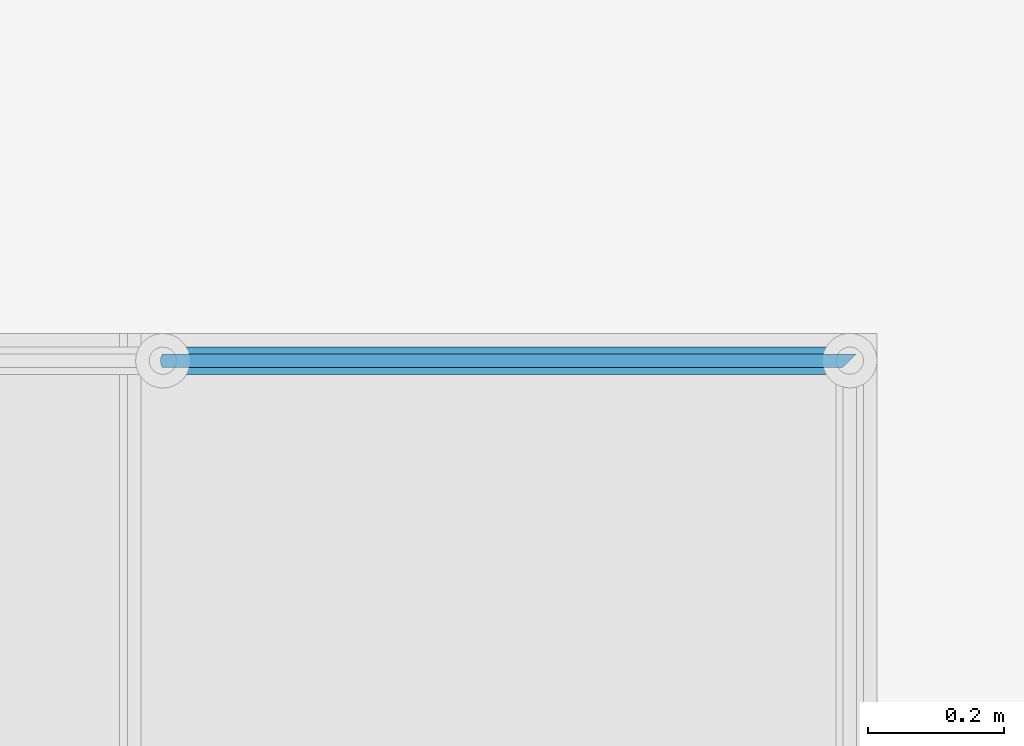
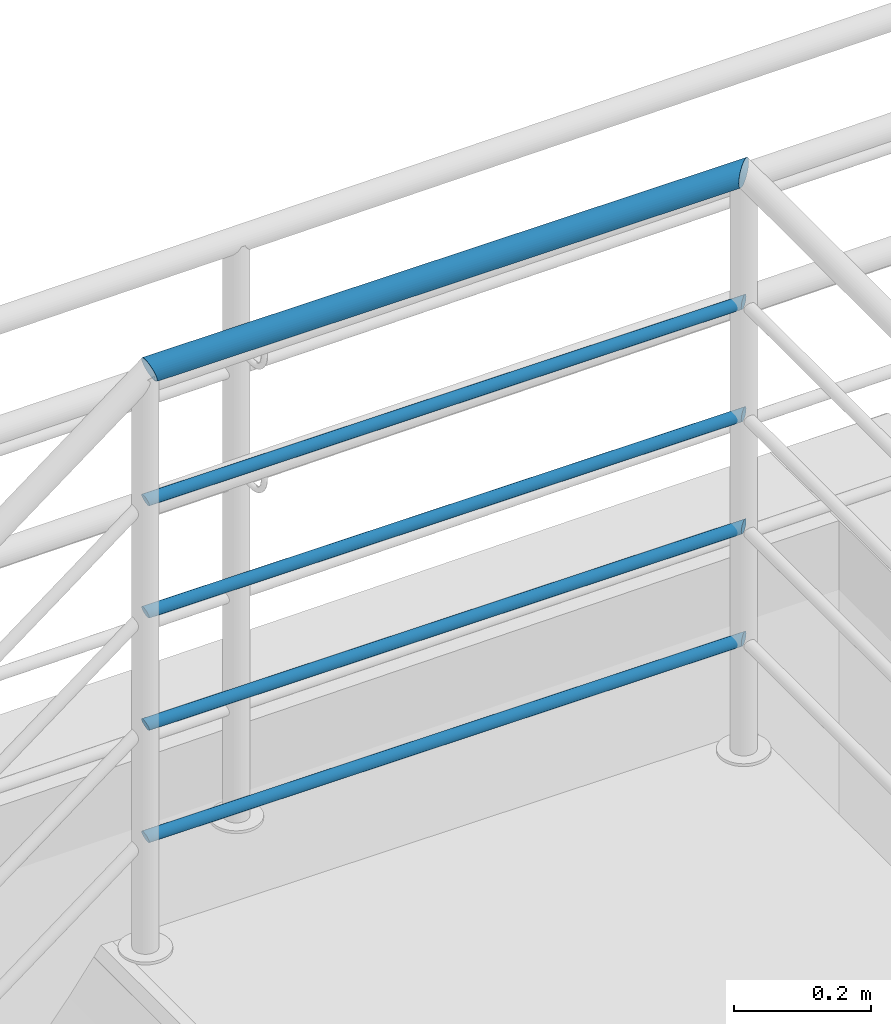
# One storey, part 54 of 237: 6 building element parts, 1 element without a shape of its own.
"""IFC2X3 building model written with IfcOpenShell, lengths in millimetres."""

from ifc_helpers import new_model, entity, si_unit, converted_unit, derived_unit, money_unit, direction, frame, origin_with_axes, place, context, subcontext, project, spatial, faceted_brep, material, type_object, element, aggregate, save


model = new_model("IFC2X3")

# Units and contexts
model_context = context("Model", 3, precision=0.01, world=origin_with_axes(), true_north=direction((0.0, 1.0)))
body_context = subcontext(model_context, "Body", "Model", "MODEL_VIEW")
ifc_project = project(units=[si_unit("LENGTHUNIT", "METRE", prefix="MILLI"), si_unit("AREAUNIT", "SQUARE_METRE"), si_unit("VOLUMEUNIT", "CUBIC_METRE"), converted_unit("PLANEANGLEUNIT", "DEGREE", entity("IfcPlaneAngleMeasure", 0.0174532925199), si_unit("PLANEANGLEUNIT", "RADIAN"), dimensions=[0, 0, 0, 0, 0, 0, 0]), money_unit("USD"), converted_unit("TIMEUNIT", "Year", entity("IfcTimeMeasure", 31556926.0), si_unit("TIMEUNIT", "SECOND"), dimensions=[0, 0, 1, 0, 0, 0, 0]), si_unit("MASSUNIT", "GRAM", prefix="KILO"), si_unit("THERMODYNAMICTEMPERATUREUNIT", "DEGREE_CELSIUS"), si_unit("LUMINOUSINTENSITYUNIT", "LUMEN"), si_unit("ENERGYUNIT", "JOULE", prefix="MEGA"), derived_unit("THERMALCONDUCTANCEUNIT", [(si_unit("POWERUNIT", "WATT"), 1), (si_unit("LENGTHUNIT", "METRE"), -1), (si_unit("THERMODYNAMICTEMPERATUREUNIT", "KELVIN"), -1)]), derived_unit("SPECIFICHEATCAPACITYUNIT", [(si_unit("ENERGYUNIT", "JOULE"), 1), (si_unit("MASSUNIT", "GRAM", prefix="KILO"), -1), (si_unit("THERMODYNAMICTEMPERATUREUNIT", "KELVIN"), -1)]), derived_unit("MASSDENSITYUNIT", [(si_unit("MASSUNIT", "GRAM", prefix="KILO"), 1), (si_unit("VOLUMEUNIT", "CUBIC_METRE"), -1)])], contexts=[model_context])

# Site, building, storey
site_placement = place(None, origin_with_axes())
site = spatial("IfcSite", under=ifc_project, at=site_placement, Name="Local", CompositionType="ELEMENT")
building_placement = place(site_placement, origin_with_axes())
building = spatial("IfcBuilding", under=site, at=building_placement, Name="Construção", CompositionType="ELEMENT")
storey_placement = place(building_placement, origin_with_axes())
storey = spatial("IfcBuildingStorey", under=building, at=storey_placement, Name="Pavimento Térreo", CompositionType="ELEMENT", Elevation=0.0)

# Railing, building element parts
railing_type = type_object("IfcRailingType", Name="Tipo de Guarda-Corpo", PredefinedType="NOTDEFINED")
railing_placement = place(storey_placement, frame((61612.4440926, 28006.4497128, -1265.99547451), z_axis=(0.0, 0.0, 1.0), x_axis=(-1.0, 0.0, 0.0)))
railing = element("IfcRailing", 1, at=railing_placement, inside=storey, type_object=railing_type, Name="Guarda-Corpo - 001", PredefinedType="NOTDEFINED")
ifc_material = material(Name="Aço - Inoxidável")
building_element_part_1_placement = place(railing_placement, origin_with_axes())
building_element_part_1 = element("IfcBuildingElementPart", 2, at=building_element_part_1_placement, material=ifc_material, Name="Aço - Inoxidável", context=body_context, shape_type="Brep", body=[
    faceted_brep([(-2790.0, -5828.47582909, 1938.88727796), (-2790.30384494, -5828.77972828, 1942.36024151), (-1807.41508677, -5828.60509104, 1942.36024153), (-2790.30384494, -5828.77972828, 1935.41431441), (-2791.20614758, -5829.68219202, 1932.04687509), (-2792.67949192, -5831.1557994, 1928.88727796), (-2794.67911114, -5833.15577561, 1926.03152577), (-2797.14424781, -5835.62135239, 1923.5663891), (-2800.0, -5838.47761443, 1921.56676988), (-2803.15959713, -5841.63777566, 1920.09342554), (-2806.52703645, -5845.00581618, 1919.1911229), (-2810.0, -5848.47939977, 1918.88727796), (-2813.47296355, -5851.95298337, 1919.1911229), (-2816.84040287, -5855.32102388, 1920.09342554), (-2820.0, -5858.48118511, 1921.56676988), (-2822.85575219, -5861.33744715, 1923.5663891), (-2825.32088886, -5863.80302393, 1926.03152577), (-2827.32050808, -5865.80300014, 1928.88727796), (-2828.79385242, -5867.27660752, 1932.04687509), (-2829.69615506, -5868.17907126, 1935.41431441), (-2830.0, -5868.48297045, 1938.88727796), (-2829.69615506, -5868.17907126, 1942.36024151), (-2828.79385242, -5867.27660752, 1945.72768083), (-2827.32050808, -5865.80300014, 1948.88727796), (-2825.32088886, -5863.80302393, 1951.74303015), (-2822.85575219, -5861.33744715, 1954.20816682), (-2820.0, -5858.48118511, 1956.20778604), (-2816.84040287, -5855.32102388, 1957.68113038), (-2813.47296355, -5851.95298337, 1958.58343302), (-2810.0, -5848.47939977, 1958.88727796), (-2806.52703645, -5845.00581618, 1958.58343302), (-2803.15959713, -5841.63777566, 1957.68113038), (-2800.0, -5838.47761443, 1956.20778604), (-2797.14424781, -5835.62135239, 1954.20816682), (-2794.67911114, -5833.15577561, 1951.74303015), (-2792.67949192, -5831.1557994, 1948.88727796), (-2791.20614758, -5829.68219202, 1945.72768083), (-1806.28724948, -5829.50702406, 1945.72768084), (-1808.57806127, -5828.30162728, 1938.88727799), (-1809.74083658, -5828.60585337, 1935.41431444), (-1810.86808236, -5829.50852555, 1932.04687513), (-1811.92554783, -5830.9822166, 1928.887278), (-1812.88110242, -5832.98214915, 1926.03152581), (-1813.70571211, -5835.44755627, 1923.56638914), (-1814.37432152, -5838.3035278, 1921.56676993), (-1814.86661532, -5841.4632865, 1920.09342559), (-1815.1676354, -5844.8308247, 1919.19112295), (-1815.26823542, -5848.30382145, 1918.88727801), (-1815.16535869, -5851.77675151, 1919.19112295), (-1814.86213108, -5855.14409165, 1920.09342559), (-1814.367766, -5858.30352695, 1921.56676993), (-1813.69728449, -5861.15905956, 1923.56638914), (-1812.87105878, -5863.62392557, 1926.03152581), (-1811.91419333, -5865.62323128, 1928.887278), (-1810.85576201, -5867.09622878, 1932.04687513), (-1809.72792472, -5867.99816181, 1935.41431444), (-1808.56495022, -5868.30162557, 1938.88727799), (-1807.40217491, -5867.99739948, 1942.36024153), (-1806.27492912, -5867.0947273, 1945.72768084), (-1805.21746366, -5865.62103625, 1948.88727797), (-1804.26190906, -5863.6211037, 1951.74303016), (-1803.43729938, -5861.15569658, 1954.20816683), (-1802.76868996, -5858.29972505, 1956.20778604), (-1802.27639617, -5855.13996635, 1957.68113038), (-1801.97537609, -5851.77242815, 1958.58343302), (-1801.87477607, -5848.2994314, 1958.88727796), (-1801.9776528, -5844.82650134, 1958.58343302), (-1802.28088041, -5841.4591612, 1957.68113038), (-1802.77524549, -5838.2997259, 1956.20778604), (-1803.445727, -5835.44419329, 1954.20816683), (-1804.27195271, -5832.97932728, 1951.74303016), (-1805.22881816, -5830.98002157, 1948.88727797)], [[[0, 1, 2]], [[0, 3, 4, 5, 6, 7, 8, 9, 10, 11, 12, 13, 14, 15, 16, 17, 18, 19, 20, 21, 22, 23, 24, 25, 26, 27, 28, 29, 30, 31, 32, 33, 34, 35, 36, 1]], [[1, 37, 2]], [[0, 2, 38]], [[3, 0, 38]], [[4, 3, 39]], [[5, 4, 40]], [[6, 5, 41]], [[7, 6, 42]], [[8, 7, 43]], [[9, 8, 44, 45]], [[10, 9, 45, 46]], [[11, 10, 46, 47]], [[12, 11, 47, 48]], [[13, 12, 48, 49]], [[14, 13, 49]], [[15, 14, 50]], [[16, 15, 51]], [[17, 16, 52]], [[18, 17, 53]], [[19, 18, 54]], [[20, 19, 55]], [[21, 20, 56]], [[22, 21, 57]], [[23, 22, 58]], [[24, 23, 59]], [[25, 24, 60]], [[26, 25, 61]], [[27, 26, 62]], [[28, 27, 63, 64]], [[29, 28, 64, 65]], [[30, 29, 65, 66]], [[31, 30, 66, 67]], [[32, 31, 67]], [[33, 32, 68]], [[34, 33, 69]], [[35, 34, 70]], [[36, 35, 71]], [[1, 36, 37]], [[38, 2, 37, 71, 70, 69, 68, 67, 66, 65, 64, 63, 62, 61, 60, 59, 58, 57, 56, 55, 54, 53, 52, 51, 50, 49, 48, 47, 46, 45, 44, 43, 42, 41, 40, 39]], [[3, 38, 39]], [[4, 39, 40]], [[5, 40, 41]], [[6, 41, 42]], [[7, 42, 43]], [[8, 43, 44]], [[14, 49, 50]], [[15, 50, 51]], [[16, 51, 52]], [[17, 52, 53]], [[18, 53, 54]], [[19, 54, 55]], [[20, 55, 56]], [[21, 56, 57]], [[22, 57, 58]], [[23, 58, 59]], [[24, 59, 60]], [[25, 60, 61]], [[26, 61, 62]], [[27, 62, 63]], [[32, 67, 68]], [[33, 68, 69]], [[34, 69, 70]], [[35, 70, 71]], [[36, 71, 37]]]),
])
building_element_part_2_placement = place(railing_placement, origin_with_axes())
building_element_part_2 = element("IfcBuildingElementPart", 3, at=building_element_part_2_placement, material=ifc_material, Name="Aço - Inoxidável", context=body_context, shape_type="Brep", body=[
    faceted_brep([(-2800.0, -5838.47761443, 1108.88727796), (-2800.15192247, -5838.62956403, 1110.62375974), (-1801.29656659, -5838.4511637, 1110.62375974), (-2800.15192247, -5838.62956403, 1107.15079618), (-2800.60307379, -5839.08079589, 1105.46707653), (-2801.33974596, -5839.81759958, 1103.88727796), (-2802.33955557, -5840.81758769, 1102.45940186), (-2803.5721239, -5842.05037608, 1101.22683353), (-2805.0, -5843.4785071, 1100.22702392), (-2806.57979857, -5845.05858772, 1099.49035175), (-2808.26351822, -5846.74260797, 1099.03920043), (-2810.0, -5848.47939977, 1098.88727796), (-2811.73648178, -5850.21619157, 1099.03920043), (-2813.42020143, -5851.90021183, 1099.49035175), (-2815.0, -5853.48029244, 1100.22702392), (-2816.4278761, -5854.90842346, 1101.22683353), (-2817.66044443, -5856.14121185, 1102.45940186), (-2818.66025404, -5857.14119996, 1103.88727796), (-2819.39692621, -5857.87800365, 1105.46707653), (-2819.84807753, -5858.32923552, 1107.15079618), (-2820.0, -5858.48118511, 1108.88727796), (-2819.84807753, -5858.32923552, 1110.62375974), (-2819.39692621, -5857.87800365, 1112.30747939), (-2818.66025404, -5857.14119996, 1113.88727796), (-2817.66044443, -5856.14121185, 1115.31515406), (-2816.4278761, -5854.90842346, 1116.54772239), (-2815.0, -5853.48029244, 1117.547532), (-2813.42020143, -5851.90021183, 1118.28420417), (-2811.73648178, -5850.21619157, 1118.73535549), (-2810.0, -5848.47939977, 1118.88727796), (-2808.26351822, -5846.74260797, 1118.73535549), (-2806.57979857, -5845.05858772, 1118.28420417), (-2805.0, -5843.4785071, 1117.547532), (-2803.5721239, -5842.05037608, 1116.54772239), (-2802.33955557, -5840.81758769, 1115.31515406), (-2801.33974596, -5839.81759958, 1113.88727796), (-2800.60307379, -5839.08079589, 1112.30747939), (-1800.73264794, -5838.90213022, 1112.30747939), (-1801.87805383, -5838.29943182, 1108.88727796), (-1802.45944149, -5838.45154487, 1107.15079619), (-1803.02306438, -5838.90288096, 1105.46707653), (-1803.55179712, -5839.63972648, 1103.88727797), (-1804.02957441, -5840.63969276, 1102.45940187), (-1804.44187925, -5841.87239632, 1101.22683354), (-1804.77618396, -5843.30038208, 1100.22702393), (-1805.02233086, -5844.88026143, 1099.49035176), (-1805.1728409, -5846.56403053, 1099.03920044), (-1805.22314091, -5848.30052891, 1098.88727797), (-1805.17170254, -5850.03699394, 1099.03920044), (-1805.02008874, -5851.72066401, 1099.49035176), (-1804.7729062, -5853.30038166, 1100.22702393), (-1804.43766544, -5854.72814796, 1101.22683354), (-1804.02455259, -5855.96058097, 1102.45940187), (-1803.54611986, -5856.96023382, 1103.88727797), (-1803.0169042, -5857.69673258, 1105.46707653), (-1802.45298556, -5858.14769909, 1107.15079619), (-1801.87149831, -5858.29943097, 1108.88727796), (-1801.29011065, -5858.14731793, 1110.62375974), (-1800.72648776, -5857.69598183, 1112.30747939), (-1800.19775503, -5856.95913631, 1113.88727795), (-1799.71997773, -5855.95917003, 1115.31515405), (-1799.30767289, -5854.72646647, 1116.54772238), (-1798.97336818, -5853.29848071, 1117.54753199), (-1798.72722128, -5851.71860136, 1118.28420416), (-1798.57671124, -5850.03483226, 1118.73535548), (-1798.52641124, -5848.29833388, 1118.88727795), (-1798.5778496, -5846.56186885, 1118.73535548), (-1798.7294634, -5844.87819878, 1118.28420416), (-1798.97664594, -5843.29848113, 1117.54753199), (-1799.3118867, -5841.87071483, 1116.54772238), (-1799.72499955, -5840.63828182, 1115.31515405), (-1800.20343228, -5839.63862897, 1113.88727795)], [[[0, 1, 2]], [[0, 3, 4, 5, 6, 7, 8, 9, 10, 11, 12, 13, 14, 15, 16, 17, 18, 19, 20, 21, 22, 23, 24, 25, 26, 27, 28, 29, 30, 31, 32, 33, 34, 35, 36, 1]], [[1, 37, 2]], [[0, 2, 38]], [[3, 0, 38]], [[4, 3, 39]], [[5, 4, 40]], [[6, 5, 41]], [[7, 6, 42, 43]], [[8, 7, 43, 44]], [[9, 8, 44, 45]], [[10, 9, 45, 46]], [[11, 10, 46, 47]], [[12, 11, 47, 48]], [[13, 12, 48, 49]], [[14, 13, 49, 50]], [[15, 14, 50, 51]], [[16, 15, 51, 52]], [[17, 16, 52]], [[18, 17, 53]], [[19, 18, 54]], [[20, 19, 55]], [[21, 20, 56]], [[22, 21, 57]], [[23, 22, 58]], [[24, 23, 59]], [[25, 24, 60, 61]], [[26, 25, 61, 62]], [[27, 26, 62, 63]], [[28, 27, 63, 64]], [[29, 28, 64, 65]], [[30, 29, 65, 66]], [[31, 30, 66, 67]], [[32, 31, 67, 68]], [[33, 32, 68, 69]], [[34, 33, 69, 70]], [[35, 34, 70]], [[36, 35, 71]], [[1, 36, 37]], [[38, 2, 37, 71, 70, 69, 68, 67, 66, 65, 64, 63, 62, 61, 60, 59, 58, 57, 56, 55, 54, 53, 52, 51, 50, 49, 48, 47, 46, 45, 44, 43, 42, 41, 40, 39]], [[3, 38, 39]], [[4, 39, 40]], [[5, 40, 41]], [[6, 41, 42]], [[17, 52, 53]], [[18, 53, 54]], [[19, 54, 55]], [[20, 55, 56]], [[21, 56, 57]], [[22, 57, 58]], [[23, 58, 59]], [[24, 59, 60]], [[35, 70, 71]], [[36, 71, 37]]]),
])
building_element_part_3_placement = place(railing_placement, origin_with_axes())
building_element_part_3 = element("IfcBuildingElementPart", 4, at=building_element_part_3_placement, material=ifc_material, Name="Aço - Inoxidável", context=body_context, shape_type="Brep", body=[
    faceted_brep([(-2800.0, -5838.47761443, 1308.88727796), (-2800.15192247, -5838.62956403, 1310.62375974), (-1801.29656659, -5838.4511637, 1310.62375974), (-2800.15192247, -5838.62956403, 1307.15079618), (-2800.60307379, -5839.08079589, 1305.46707653), (-2801.33974596, -5839.81759958, 1303.88727796), (-2802.33955557, -5840.81758769, 1302.45940186), (-2803.5721239, -5842.05037608, 1301.22683353), (-2805.0, -5843.4785071, 1300.22702392), (-2806.57979857, -5845.05858772, 1299.49035175), (-2808.26351822, -5846.74260797, 1299.03920043), (-2810.0, -5848.47939977, 1298.88727796), (-2811.73648178, -5850.21619157, 1299.03920043), (-2813.42020143, -5851.90021183, 1299.49035175), (-2815.0, -5853.48029244, 1300.22702392), (-2816.4278761, -5854.90842346, 1301.22683353), (-2817.66044443, -5856.14121185, 1302.45940186), (-2818.66025404, -5857.14119996, 1303.88727796), (-2819.39692621, -5857.87800365, 1305.46707653), (-2819.84807753, -5858.32923552, 1307.15079618), (-2820.0, -5858.48118511, 1308.88727796), (-2819.84807753, -5858.32923552, 1310.62375974), (-2819.39692621, -5857.87800365, 1312.30747939), (-2818.66025404, -5857.14119996, 1313.88727796), (-2817.66044443, -5856.14121185, 1315.31515406), (-2816.4278761, -5854.90842346, 1316.54772239), (-2815.0, -5853.48029244, 1317.547532), (-2813.42020143, -5851.90021183, 1318.28420417), (-2811.73648178, -5850.21619157, 1318.73535549), (-2810.0, -5848.47939977, 1318.88727796), (-2808.26351822, -5846.74260797, 1318.73535549), (-2806.57979857, -5845.05858772, 1318.28420417), (-2805.0, -5843.4785071, 1317.547532), (-2803.5721239, -5842.05037608, 1316.54772239), (-2802.33955557, -5840.81758769, 1315.31515406), (-2801.33974596, -5839.81759958, 1313.88727796), (-2800.60307379, -5839.08079589, 1312.30747939), (-1800.73264794, -5838.90213022, 1312.30747939), (-1801.87805383, -5838.29943182, 1308.88727796), (-1802.45944149, -5838.45154487, 1307.15079619), (-1803.02306438, -5838.90288096, 1305.46707653), (-1803.55179712, -5839.63972648, 1303.88727797), (-1804.02957441, -5840.63969276, 1302.45940187), (-1804.44187925, -5841.87239632, 1301.22683354), (-1804.77618396, -5843.30038208, 1300.22702393), (-1805.02233086, -5844.88026143, 1299.49035176), (-1805.1728409, -5846.56403053, 1299.03920044), (-1805.22314091, -5848.30052891, 1298.88727797), (-1805.17170254, -5850.03699394, 1299.03920044), (-1805.02008874, -5851.72066401, 1299.49035176), (-1804.7729062, -5853.30038166, 1300.22702393), (-1804.43766544, -5854.72814796, 1301.22683354), (-1804.02455259, -5855.96058097, 1302.45940187), (-1803.54611986, -5856.96023382, 1303.88727797), (-1803.0169042, -5857.69673258, 1305.46707653), (-1802.45298556, -5858.14769909, 1307.15079619), (-1801.87149831, -5858.29943097, 1308.88727796), (-1801.29011065, -5858.14731793, 1310.62375974), (-1800.72648776, -5857.69598183, 1312.30747939), (-1800.19775503, -5856.95913631, 1313.88727795), (-1799.71997773, -5855.95917003, 1315.31515405), (-1799.30767289, -5854.72646647, 1316.54772238), (-1798.97336818, -5853.29848071, 1317.54753199), (-1798.72722128, -5851.71860136, 1318.28420416), (-1798.57671124, -5850.03483226, 1318.73535548), (-1798.52641124, -5848.29833388, 1318.88727795), (-1798.5778496, -5846.56186885, 1318.73535548), (-1798.7294634, -5844.87819878, 1318.28420416), (-1798.97664594, -5843.29848113, 1317.54753199), (-1799.3118867, -5841.87071483, 1316.54772238), (-1799.72499955, -5840.63828182, 1315.31515405), (-1800.20343228, -5839.63862897, 1313.88727795)], [[[0, 1, 2]], [[0, 3, 4, 5, 6, 7, 8, 9, 10, 11, 12, 13, 14, 15, 16, 17, 18, 19, 20, 21, 22, 23, 24, 25, 26, 27, 28, 29, 30, 31, 32, 33, 34, 35, 36, 1]], [[1, 37, 2]], [[0, 2, 38]], [[3, 0, 38]], [[4, 3, 39]], [[5, 4, 40]], [[6, 5, 41]], [[7, 6, 42, 43]], [[8, 7, 43, 44]], [[9, 8, 44, 45]], [[10, 9, 45, 46]], [[11, 10, 46, 47]], [[12, 11, 47, 48]], [[13, 12, 48, 49]], [[14, 13, 49, 50]], [[15, 14, 50, 51]], [[16, 15, 51, 52]], [[17, 16, 52]], [[18, 17, 53]], [[19, 18, 54]], [[20, 19, 55]], [[21, 20, 56]], [[22, 21, 57]], [[23, 22, 58]], [[24, 23, 59]], [[25, 24, 60, 61]], [[26, 25, 61, 62]], [[27, 26, 62, 63]], [[28, 27, 63, 64]], [[29, 28, 64, 65]], [[30, 29, 65, 66]], [[31, 30, 66, 67]], [[32, 31, 67, 68]], [[33, 32, 68, 69]], [[34, 33, 69, 70]], [[35, 34, 70]], [[36, 35, 71]], [[1, 36, 37]], [[38, 2, 37, 71, 70, 69, 68, 67, 66, 65, 64, 63, 62, 61, 60, 59, 58, 57, 56, 55, 54, 53, 52, 51, 50, 49, 48, 47, 46, 45, 44, 43, 42, 41, 40, 39]], [[3, 38, 39]], [[4, 39, 40]], [[5, 40, 41]], [[6, 41, 42]], [[17, 52, 53]], [[18, 53, 54]], [[19, 54, 55]], [[20, 55, 56]], [[21, 56, 57]], [[22, 57, 58]], [[23, 58, 59]], [[24, 59, 60]], [[35, 70, 71]], [[36, 71, 37]]]),
])
building_element_part_4_placement = place(railing_placement, origin_with_axes())
building_element_part_4 = element("IfcBuildingElementPart", 5, at=building_element_part_4_placement, material=ifc_material, Name="Aço - Inoxidável", context=body_context, shape_type="Brep", body=[
    faceted_brep([(-2800.0, -5838.47761443, 1308.88727796), (-2800.15192247, -5838.62956403, 1310.62375974), (-1801.29656659, -5838.4511637, 1310.62375974), (-2800.15192247, -5838.62956403, 1307.15079618), (-2800.60307379, -5839.08079589, 1305.46707653), (-2801.33974596, -5839.81759958, 1303.88727796), (-2802.33955557, -5840.81758769, 1302.45940186), (-2803.5721239, -5842.05037608, 1301.22683353), (-2805.0, -5843.4785071, 1300.22702392), (-2806.57979857, -5845.05858772, 1299.49035175), (-2808.26351822, -5846.74260797, 1299.03920043), (-2810.0, -5848.47939977, 1298.88727796), (-2811.73648178, -5850.21619157, 1299.03920043), (-2813.42020143, -5851.90021183, 1299.49035175), (-2815.0, -5853.48029244, 1300.22702392), (-2816.4278761, -5854.90842346, 1301.22683353), (-2817.66044443, -5856.14121185, 1302.45940186), (-2818.66025404, -5857.14119996, 1303.88727796), (-2819.39692621, -5857.87800365, 1305.46707653), (-2819.84807753, -5858.32923552, 1307.15079618), (-2820.0, -5858.48118511, 1308.88727796), (-2819.84807753, -5858.32923552, 1310.62375974), (-2819.39692621, -5857.87800365, 1312.30747939), (-2818.66025404, -5857.14119996, 1313.88727796), (-2817.66044443, -5856.14121185, 1315.31515406), (-2816.4278761, -5854.90842346, 1316.54772239), (-2815.0, -5853.48029244, 1317.547532), (-2813.42020143, -5851.90021183, 1318.28420417), (-2811.73648178, -5850.21619157, 1318.73535549), (-2810.0, -5848.47939977, 1318.88727796), (-2808.26351822, -5846.74260797, 1318.73535549), (-2806.57979857, -5845.05858772, 1318.28420417), (-2805.0, -5843.4785071, 1317.547532), (-2803.5721239, -5842.05037608, 1316.54772239), (-2802.33955557, -5840.81758769, 1315.31515406), (-2801.33974596, -5839.81759958, 1313.88727796), (-2800.60307379, -5839.08079589, 1312.30747939), (-1800.73264794, -5838.90213022, 1312.30747939), (-1801.87805383, -5838.29943182, 1308.88727796), (-1802.45944149, -5838.45154487, 1307.15079619), (-1803.02306438, -5838.90288096, 1305.46707653), (-1803.55179712, -5839.63972648, 1303.88727797), (-1804.02957441, -5840.63969276, 1302.45940187), (-1804.44187925, -5841.87239632, 1301.22683354), (-1804.77618396, -5843.30038208, 1300.22702393), (-1805.02233086, -5844.88026143, 1299.49035176), (-1805.1728409, -5846.56403053, 1299.03920044), (-1805.22314091, -5848.30052891, 1298.88727797), (-1805.17170254, -5850.03699394, 1299.03920044), (-1805.02008874, -5851.72066401, 1299.49035176), (-1804.7729062, -5853.30038166, 1300.22702393), (-1804.43766544, -5854.72814796, 1301.22683354), (-1804.02455259, -5855.96058097, 1302.45940187), (-1803.54611986, -5856.96023382, 1303.88727797), (-1803.0169042, -5857.69673258, 1305.46707653), (-1802.45298556, -5858.14769909, 1307.15079619), (-1801.87149831, -5858.29943097, 1308.88727796), (-1801.29011065, -5858.14731793, 1310.62375974), (-1800.72648776, -5857.69598183, 1312.30747939), (-1800.19775503, -5856.95913631, 1313.88727795), (-1799.71997773, -5855.95917003, 1315.31515405), (-1799.30767289, -5854.72646647, 1316.54772238), (-1798.97336818, -5853.29848071, 1317.54753199), (-1798.72722128, -5851.71860136, 1318.28420416), (-1798.57671124, -5850.03483226, 1318.73535548), (-1798.52641124, -5848.29833388, 1318.88727795), (-1798.5778496, -5846.56186885, 1318.73535548), (-1798.7294634, -5844.87819878, 1318.28420416), (-1798.97664594, -5843.29848113, 1317.54753199), (-1799.3118867, -5841.87071483, 1316.54772238), (-1799.72499955, -5840.63828182, 1315.31515405), (-1800.20343228, -5839.63862897, 1313.88727795)], [[[0, 1, 2]], [[0, 3, 4, 5, 6, 7, 8, 9, 10, 11, 12, 13, 14, 15, 16, 17, 18, 19, 20, 21, 22, 23, 24, 25, 26, 27, 28, 29, 30, 31, 32, 33, 34, 35, 36, 1]], [[1, 37, 2]], [[0, 2, 38]], [[3, 0, 38]], [[4, 3, 39]], [[5, 4, 40]], [[6, 5, 41]], [[7, 6, 42, 43]], [[8, 7, 43, 44]], [[9, 8, 44, 45]], [[10, 9, 45, 46]], [[11, 10, 46, 47]], [[12, 11, 47, 48]], [[13, 12, 48, 49]], [[14, 13, 49, 50]], [[15, 14, 50, 51]], [[16, 15, 51, 52]], [[17, 16, 52]], [[18, 17, 53]], [[19, 18, 54]], [[20, 19, 55]], [[21, 20, 56]], [[22, 21, 57]], [[23, 22, 58]], [[24, 23, 59]], [[25, 24, 60, 61]], [[26, 25, 61, 62]], [[27, 26, 62, 63]], [[28, 27, 63, 64]], [[29, 28, 64, 65]], [[30, 29, 65, 66]], [[31, 30, 66, 67]], [[32, 31, 67, 68]], [[33, 32, 68, 69]], [[34, 33, 69, 70]], [[35, 34, 70]], [[36, 35, 71]], [[1, 36, 37]], [[38, 2, 37, 71, 70, 69, 68, 67, 66, 65, 64, 63, 62, 61, 60, 59, 58, 57, 56, 55, 54, 53, 52, 51, 50, 49, 48, 47, 46, 45, 44, 43, 42, 41, 40, 39]], [[3, 38, 39]], [[4, 39, 40]], [[5, 40, 41]], [[6, 41, 42]], [[17, 52, 53]], [[18, 53, 54]], [[19, 54, 55]], [[20, 55, 56]], [[21, 56, 57]], [[22, 57, 58]], [[23, 58, 59]], [[24, 59, 60]], [[35, 70, 71]], [[36, 71, 37]]]),
])
building_element_part_5_placement = place(railing_placement, origin_with_axes())
building_element_part_5 = element("IfcBuildingElementPart", 6, at=building_element_part_5_placement, material=ifc_material, Name="Aço - Inoxidável", context=body_context, shape_type="Brep", body=[
    faceted_brep([(-2800.0, -5838.47761443, 1508.88727796), (-2800.15192247, -5838.62956403, 1510.62375974), (-1801.29656659, -5838.4511637, 1510.62375974), (-2800.15192247, -5838.62956403, 1507.15079618), (-2800.60307379, -5839.08079589, 1505.46707653), (-2801.33974596, -5839.81759958, 1503.88727796), (-2802.33955557, -5840.81758769, 1502.45940186), (-2803.5721239, -5842.05037608, 1501.22683353), (-2805.0, -5843.4785071, 1500.22702392), (-2806.57979857, -5845.05858772, 1499.49035175), (-2808.26351822, -5846.74260797, 1499.03920043), (-2810.0, -5848.47939977, 1498.88727796), (-2811.73648178, -5850.21619157, 1499.03920043), (-2813.42020143, -5851.90021183, 1499.49035175), (-2815.0, -5853.48029244, 1500.22702392), (-2816.4278761, -5854.90842346, 1501.22683353), (-2817.66044443, -5856.14121185, 1502.45940186), (-2818.66025404, -5857.14119996, 1503.88727796), (-2819.39692621, -5857.87800365, 1505.46707653), (-2819.84807753, -5858.32923552, 1507.15079618), (-2820.0, -5858.48118511, 1508.88727796), (-2819.84807753, -5858.32923552, 1510.62375974), (-2819.39692621, -5857.87800365, 1512.30747939), (-2818.66025404, -5857.14119996, 1513.88727796), (-2817.66044443, -5856.14121185, 1515.31515406), (-2816.4278761, -5854.90842346, 1516.54772239), (-2815.0, -5853.48029244, 1517.547532), (-2813.42020143, -5851.90021183, 1518.28420417), (-2811.73648178, -5850.21619157, 1518.73535549), (-2810.0, -5848.47939977, 1518.88727796), (-2808.26351822, -5846.74260797, 1518.73535549), (-2806.57979857, -5845.05858772, 1518.28420417), (-2805.0, -5843.4785071, 1517.547532), (-2803.5721239, -5842.05037608, 1516.54772239), (-2802.33955557, -5840.81758769, 1515.31515406), (-2801.33974596, -5839.81759958, 1513.88727796), (-2800.60307379, -5839.08079589, 1512.30747939), (-1800.73264794, -5838.90213022, 1512.30747939), (-1801.87805383, -5838.29943182, 1508.88727796), (-1802.45944149, -5838.45154487, 1507.15079619), (-1803.02306438, -5838.90288096, 1505.46707653), (-1803.55179712, -5839.63972648, 1503.88727797), (-1804.02957441, -5840.63969276, 1502.45940187), (-1804.44187925, -5841.87239632, 1501.22683354), (-1804.77618396, -5843.30038208, 1500.22702393), (-1805.02233086, -5844.88026143, 1499.49035176), (-1805.1728409, -5846.56403053, 1499.03920044), (-1805.22314091, -5848.30052891, 1498.88727797), (-1805.17170254, -5850.03699394, 1499.03920044), (-1805.02008874, -5851.72066401, 1499.49035176), (-1804.7729062, -5853.30038166, 1500.22702393), (-1804.43766544, -5854.72814796, 1501.22683354), (-1804.02455259, -5855.96058097, 1502.45940187), (-1803.54611986, -5856.96023382, 1503.88727797), (-1803.0169042, -5857.69673258, 1505.46707653), (-1802.45298556, -5858.14769909, 1507.15079619), (-1801.87149831, -5858.29943097, 1508.88727796), (-1801.29011065, -5858.14731793, 1510.62375974), (-1800.72648776, -5857.69598183, 1512.30747939), (-1800.19775503, -5856.95913631, 1513.88727795), (-1799.71997773, -5855.95917003, 1515.31515405), (-1799.30767289, -5854.72646647, 1516.54772238), (-1798.97336818, -5853.29848071, 1517.54753199), (-1798.72722128, -5851.71860136, 1518.28420416), (-1798.57671124, -5850.03483226, 1518.73535548), (-1798.52641124, -5848.29833388, 1518.88727795), (-1798.5778496, -5846.56186885, 1518.73535548), (-1798.7294634, -5844.87819878, 1518.28420416), (-1798.97664594, -5843.29848113, 1517.54753199), (-1799.3118867, -5841.87071483, 1516.54772238), (-1799.72499955, -5840.63828182, 1515.31515405), (-1800.20343228, -5839.63862897, 1513.88727795)], [[[0, 1, 2]], [[0, 3, 4, 5, 6, 7, 8, 9, 10, 11, 12, 13, 14, 15, 16, 17, 18, 19, 20, 21, 22, 23, 24, 25, 26, 27, 28, 29, 30, 31, 32, 33, 34, 35, 36, 1]], [[1, 37, 2]], [[0, 2, 38]], [[3, 0, 38]], [[4, 3, 39]], [[5, 4, 40]], [[6, 5, 41]], [[7, 6, 42, 43]], [[8, 7, 43, 44]], [[9, 8, 44, 45]], [[10, 9, 45, 46]], [[11, 10, 46, 47]], [[12, 11, 47, 48]], [[13, 12, 48, 49]], [[14, 13, 49, 50]], [[15, 14, 50, 51]], [[16, 15, 51, 52]], [[17, 16, 52]], [[18, 17, 53]], [[19, 18, 54]], [[20, 19, 55]], [[21, 20, 56]], [[22, 21, 57]], [[23, 22, 58]], [[24, 23, 59]], [[25, 24, 60, 61]], [[26, 25, 61, 62]], [[27, 26, 62, 63]], [[28, 27, 63, 64]], [[29, 28, 64, 65]], [[30, 29, 65, 66]], [[31, 30, 66, 67]], [[32, 31, 67, 68]], [[33, 32, 68, 69]], [[34, 33, 69, 70]], [[35, 34, 70]], [[36, 35, 71]], [[1, 36, 37]], [[38, 2, 37, 71, 70, 69, 68, 67, 66, 65, 64, 63, 62, 61, 60, 59, 58, 57, 56, 55, 54, 53, 52, 51, 50, 49, 48, 47, 46, 45, 44, 43, 42, 41, 40, 39]], [[3, 38, 39]], [[4, 39, 40]], [[5, 40, 41]], [[6, 41, 42]], [[17, 52, 53]], [[18, 53, 54]], [[19, 54, 55]], [[20, 55, 56]], [[21, 56, 57]], [[22, 57, 58]], [[23, 58, 59]], [[24, 59, 60]], [[35, 70, 71]], [[36, 71, 37]]]),
])
building_element_part_6_placement = place(railing_placement, origin_with_axes())
building_element_part_6 = element("IfcBuildingElementPart", 7, at=building_element_part_6_placement, material=ifc_material, Name="Aço - Inoxidável", context=body_context, shape_type="Brep", body=[
    faceted_brep([(-2800.0, -5838.47761443, 1708.88727796), (-2800.15192247, -5838.62956403, 1710.62375974), (-1801.29656659, -5838.4511637, 1710.62375974), (-2800.15192247, -5838.62956403, 1707.15079618), (-2800.60307379, -5839.08079589, 1705.46707653), (-2801.33974596, -5839.81759958, 1703.88727796), (-2802.33955557, -5840.81758769, 1702.45940186), (-2803.5721239, -5842.05037608, 1701.22683353), (-2805.0, -5843.4785071, 1700.22702392), (-2806.57979857, -5845.05858772, 1699.49035175), (-2808.26351822, -5846.74260797, 1699.03920043), (-2810.0, -5848.47939977, 1698.88727796), (-2811.73648178, -5850.21619157, 1699.03920043), (-2813.42020143, -5851.90021183, 1699.49035175), (-2815.0, -5853.48029244, 1700.22702392), (-2816.4278761, -5854.90842346, 1701.22683353), (-2817.66044443, -5856.14121185, 1702.45940186), (-2818.66025404, -5857.14119996, 1703.88727796), (-2819.39692621, -5857.87800365, 1705.46707653), (-2819.84807753, -5858.32923552, 1707.15079618), (-2820.0, -5858.48118511, 1708.88727796), (-2819.84807753, -5858.32923552, 1710.62375974), (-2819.39692621, -5857.87800365, 1712.30747939), (-2818.66025404, -5857.14119996, 1713.88727796), (-2817.66044443, -5856.14121185, 1715.31515406), (-2816.4278761, -5854.90842346, 1716.54772239), (-2815.0, -5853.48029244, 1717.547532), (-2813.42020143, -5851.90021183, 1718.28420417), (-2811.73648178, -5850.21619157, 1718.73535549), (-2810.0, -5848.47939977, 1718.88727796), (-2808.26351822, -5846.74260797, 1718.73535549), (-2806.57979857, -5845.05858772, 1718.28420417), (-2805.0, -5843.4785071, 1717.547532), (-2803.5721239, -5842.05037608, 1716.54772239), (-2802.33955557, -5840.81758769, 1715.31515406), (-2801.33974596, -5839.81759958, 1713.88727796), (-2800.60307379, -5839.08079589, 1712.30747939), (-1800.73264794, -5838.90213022, 1712.30747939), (-1801.87805383, -5838.29943182, 1708.88727796), (-1802.45944149, -5838.45154487, 1707.15079619), (-1803.02306438, -5838.90288096, 1705.46707653), (-1803.55179712, -5839.63972648, 1703.88727797), (-1804.02957441, -5840.63969276, 1702.45940187), (-1804.44187925, -5841.87239632, 1701.22683354), (-1804.77618396, -5843.30038208, 1700.22702393), (-1805.02233086, -5844.88026143, 1699.49035176), (-1805.1728409, -5846.56403053, 1699.03920044), (-1805.22314091, -5848.30052891, 1698.88727797), (-1805.17170254, -5850.03699394, 1699.03920044), (-1805.02008874, -5851.72066401, 1699.49035176), (-1804.7729062, -5853.30038166, 1700.22702393), (-1804.43766544, -5854.72814796, 1701.22683354), (-1804.02455259, -5855.96058097, 1702.45940187), (-1803.54611986, -5856.96023382, 1703.88727797), (-1803.0169042, -5857.69673258, 1705.46707653), (-1802.45298556, -5858.14769909, 1707.15079619), (-1801.87149831, -5858.29943097, 1708.88727796), (-1801.29011065, -5858.14731793, 1710.62375974), (-1800.72648776, -5857.69598183, 1712.30747939), (-1800.19775503, -5856.95913631, 1713.88727795), (-1799.71997773, -5855.95917003, 1715.31515405), (-1799.30767289, -5854.72646647, 1716.54772238), (-1798.97336818, -5853.29848071, 1717.54753199), (-1798.72722128, -5851.71860136, 1718.28420416), (-1798.57671124, -5850.03483226, 1718.73535548), (-1798.52641124, -5848.29833388, 1718.88727795), (-1798.5778496, -5846.56186885, 1718.73535548), (-1798.7294634, -5844.87819878, 1718.28420416), (-1798.97664594, -5843.29848113, 1717.54753199), (-1799.3118867, -5841.87071483, 1716.54772238), (-1799.72499955, -5840.63828182, 1715.31515405), (-1800.20343228, -5839.63862897, 1713.88727795)], [[[0, 1, 2]], [[0, 3, 4, 5, 6, 7, 8, 9, 10, 11, 12, 13, 14, 15, 16, 17, 18, 19, 20, 21, 22, 23, 24, 25, 26, 27, 28, 29, 30, 31, 32, 33, 34, 35, 36, 1]], [[1, 37, 2]], [[0, 2, 38]], [[3, 0, 38]], [[4, 3, 39]], [[5, 4, 40]], [[6, 5, 41]], [[7, 6, 42, 43]], [[8, 7, 43, 44]], [[9, 8, 44, 45]], [[10, 9, 45, 46]], [[11, 10, 46, 47]], [[12, 11, 47, 48]], [[13, 12, 48, 49]], [[14, 13, 49, 50]], [[15, 14, 50, 51]], [[16, 15, 51, 52]], [[17, 16, 52]], [[18, 17, 53]], [[19, 18, 54]], [[20, 19, 55]], [[21, 20, 56]], [[22, 21, 57]], [[23, 22, 58]], [[24, 23, 59]], [[25, 24, 60, 61]], [[26, 25, 61, 62]], [[27, 26, 62, 63]], [[28, 27, 63, 64]], [[29, 28, 64, 65]], [[30, 29, 65, 66]], [[31, 30, 66, 67]], [[32, 31, 67, 68]], [[33, 32, 68, 69]], [[34, 33, 69, 70]], [[35, 34, 70]], [[36, 35, 71]], [[1, 36, 37]], [[38, 2, 37, 71, 70, 69, 68, 67, 66, 65, 64, 63, 62, 61, 60, 59, 58, 57, 56, 55, 54, 53, 52, 51, 50, 49, 48, 47, 46, 45, 44, 43, 42, 41, 40, 39]], [[3, 38, 39]], [[4, 39, 40]], [[5, 40, 41]], [[6, 41, 42]], [[17, 52, 53]], [[18, 53, 54]], [[19, 54, 55]], [[20, 55, 56]], [[21, 56, 57]], [[22, 57, 58]], [[23, 58, 59]], [[24, 59, 60]], [[35, 70, 71]], [[36, 71, 37]]]),
])
aggregate(railing, [building_element_part_1, building_element_part_2, building_element_part_3, building_element_part_4, building_element_part_5, building_element_part_6])

save(model, "model.ifc")
